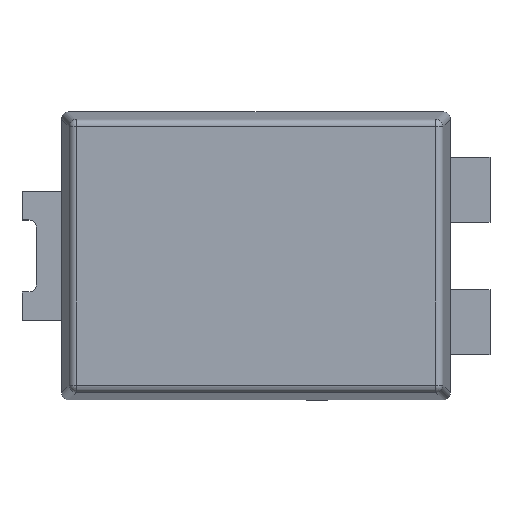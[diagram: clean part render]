
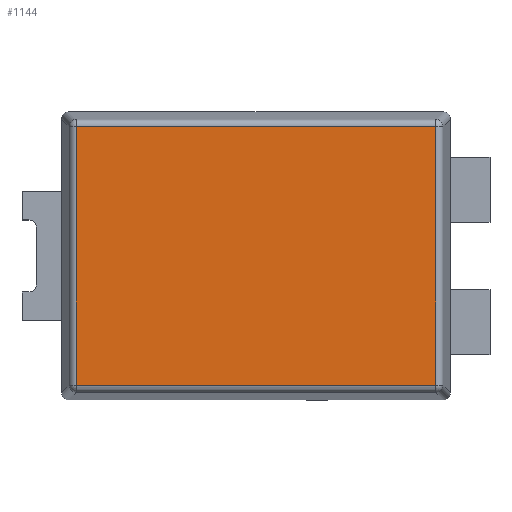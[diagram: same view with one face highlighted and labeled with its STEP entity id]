
A CAD part, top view. The second image highlights one B-rep face of the part: STEP entity #1144.
In plain terms, the highlighted planar face has unit normal (0, 0, 1).
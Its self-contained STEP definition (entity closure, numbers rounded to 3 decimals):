
#94=ORIENTED_EDGE('',*,*,#426,.T.);
#95=ORIENTED_EDGE('',*,*,#427,.T.);
#96=ORIENTED_EDGE('',*,*,#428,.T.);
#97=ORIENTED_EDGE('',*,*,#429,.T.);
#426=EDGE_CURVE('',#592,#593,#692,.F.);
#427=EDGE_CURVE('',#593,#594,#693,.F.);
#428=EDGE_CURVE('',#594,#595,#694,.F.);
#429=EDGE_CURVE('',#595,#592,#695,.F.);
#592=VERTEX_POINT('',#1748);
#593=VERTEX_POINT('',#1749);
#594=VERTEX_POINT('',#1751);
#595=VERTEX_POINT('',#1753);
#692=LINE('',#1747,#826);
#693=LINE('',#1750,#827);
#694=LINE('',#1752,#828);
#695=LINE('',#1754,#829);
#826=VECTOR('',#1389,1000.);
#827=VECTOR('',#1390,1000.);
#828=VECTOR('',#1391,1000.);
#829=VECTOR('',#1392,1000.);
#948=EDGE_LOOP('',(#94,#95,#96,#97));
#1022=FACE_BOUND('',#948,.T.);
#1096=PLANE('',#1259);
#1144=ADVANCED_FACE('',(#1022),#1096,.F.);
#1259=AXIS2_PLACEMENT_3D('',#1746,#1387,#1388);
#1387=DIRECTION('',(0.,0.,-1.));
#1388=DIRECTION('',(-1.,0.,0.));
#1389=DIRECTION('',(-1.,0.,0.));
#1390=DIRECTION('',(0.,-1.,0.));
#1391=DIRECTION('',(1.,0.,0.));
#1392=DIRECTION('',(0.,1.,0.));
#1746=CARTESIAN_POINT('',(0.,0.,0.83));
#1747=CARTESIAN_POINT('',(2.484,-1.796,0.83));
#1748=CARTESIAN_POINT('',(-2.496,-1.796,0.83));
#1749=CARTESIAN_POINT('',(2.496,-1.796,0.83));
#1750=CARTESIAN_POINT('',(2.496,1.784,0.83));
#1751=CARTESIAN_POINT('',(2.496,1.796,0.83));
#1752=CARTESIAN_POINT('',(-2.484,1.796,0.83));
#1753=CARTESIAN_POINT('',(-2.496,1.796,0.83));
#1754=CARTESIAN_POINT('',(-2.496,-1.784,0.83));
